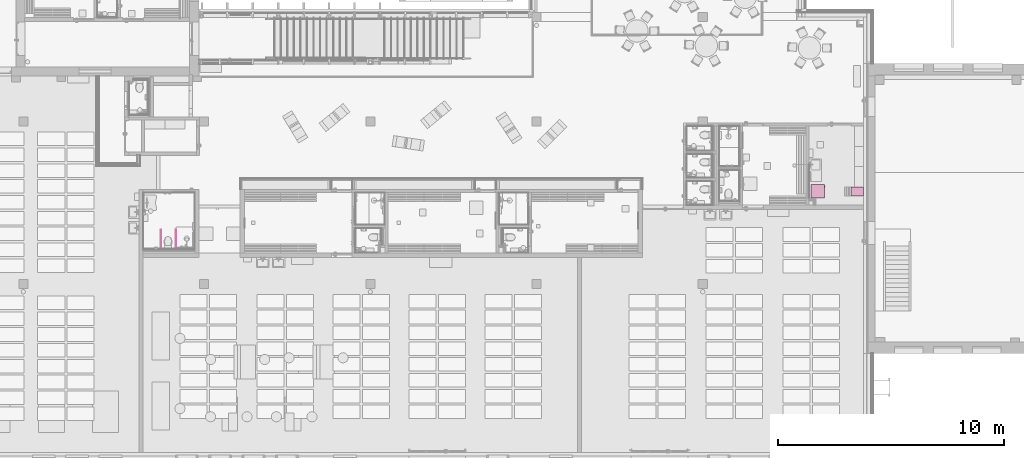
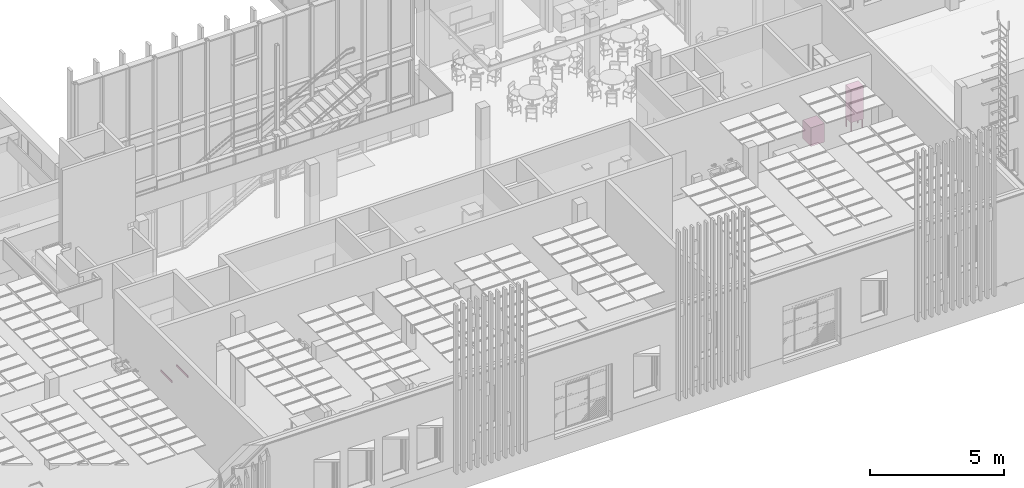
# One storey, part 285 of 301: 4 furnishings.
"""IFC2X3 building model written with IfcOpenShell, lengths in millimetres."""

from ifc_helpers import new_model, entity, si_unit, converted_unit, derived_unit, money_unit, direction, frame, origin_with_axes, place, context, subcontext, project, spatial, open_shell, faceted_brep, surface_model, material, type_object, element, save


model = new_model("IFC2X3")

# Units and contexts
model_context = context("Model", 3, precision=0.01, world=origin_with_axes(), true_north=direction((0.0, 1.0)))
body_context = subcontext(model_context, "Body", "Model", "MODEL_VIEW")
ifc_project = project(units=[si_unit("LENGTHUNIT", "METRE", prefix="MILLI"), si_unit("AREAUNIT", "SQUARE_METRE"), si_unit("VOLUMEUNIT", "CUBIC_METRE"), converted_unit("PLANEANGLEUNIT", "DEGREE", entity("IfcPlaneAngleMeasure", 0.0174532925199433), si_unit("PLANEANGLEUNIT", "RADIAN"), dimensions=[0, 0, 0, 0, 0, 0, 0]), money_unit("EUR"), converted_unit("TIMEUNIT", "Year", entity("IfcTimeMeasure", 31557600.0), si_unit("TIMEUNIT", "SECOND"), dimensions=[0, 0, 1, 0, 0, 0, 0]), si_unit("MASSUNIT", "GRAM", prefix="KILO"), si_unit("THERMODYNAMICTEMPERATUREUNIT", "DEGREE_CELSIUS"), si_unit("LUMINOUSINTENSITYUNIT", "LUMEN"), si_unit("ENERGYUNIT", "JOULE", prefix="MEGA"), derived_unit("THERMALCONDUCTANCEUNIT", [(si_unit("POWERUNIT", "WATT"), 1), (si_unit("LENGTHUNIT", "METRE"), -1), (si_unit("THERMODYNAMICTEMPERATUREUNIT", "KELVIN"), -1)]), derived_unit("SPECIFICHEATCAPACITYUNIT", [(si_unit("ENERGYUNIT", "JOULE"), 1), (si_unit("MASSUNIT", "GRAM", prefix="KILO"), -1), (si_unit("THERMODYNAMICTEMPERATUREUNIT", "KELVIN"), -1)]), derived_unit("MASSDENSITYUNIT", [(si_unit("MASSUNIT", "GRAM", prefix="KILO"), 1), (si_unit("VOLUMEUNIT", "CUBIC_METRE"), -1)])], contexts=[model_context])

# Site, building, storey
site_placement = place(None, frame((0.0, 0.0, 8650.0), z_axis=(0.0, 0.0, 1.0), x_axis=(1.0, 0.0, 0.0)))
site = spatial("IfcSite", under=ifc_project, at=site_placement, Name="43301:001:0844", CompositionType="ELEMENT")
building_placement = place(site_placement, origin_with_axes())
building = spatial("IfcBuilding", under=site, at=building_placement, Name="Kuressaare Ametikooli tuulikute mehaanikute õppekorpus", CompositionType="ELEMENT")
storey_placement = place(building_placement, origin_with_axes())
storey = spatial("IfcBuildingStorey", under=building, at=storey_placement, Name="1.korrus", CompositionType="ELEMENT", Elevation=0.0)

# Furnishings
furniture_type_1 = type_object("IfcFurnitureType", Name="Washer 27", AssemblyPlace="NOTDEFINED")
furnishing_1_placement = place(storey_placement, frame((130710.2843234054, 20686.46984143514, 0.0), z_axis=(0.0, 0.0, 1.0), x_axis=(0.0, 1.0, 0.0)))
element("IfcFurnishingElement", 1, at=furnishing_1_placement, inside=storey, type_object=furniture_type_1, Name="PM", context=body_context, shape_type="SurfaceModel", body=[
    faceted_brep([(300.0, -580.0, 94.44444444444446), (300.0, -600.0, 94.44444444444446), (-300.0, -600.0, 94.44444444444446), (-300.0, -580.0, 94.44444444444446), (300.0, -580.0, 698.888888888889), (300.0, -599.9999999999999, 698.888888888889), (-300.0, -599.9999999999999, 698.888888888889), (-170.0, -600.0, 396.6666666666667), (-147.2243186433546, -600.0, 481.6666666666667), (-85.00000000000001, -600.0, 543.8909853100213), (0.0, -600.0, 566.6666666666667), (84.99999999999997, -600.0, 543.8909853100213), (147.2243186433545, -600.0, 481.6666666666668), (170.0, -600.0, 396.6666666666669), (147.2243186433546, -600.0, 311.6666666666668), (85.0000000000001, -600.0, 249.4423480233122), (0.0, -600.0, 226.6666666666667), (-84.99999999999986, -600.0, 249.4423480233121), (-147.2243186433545, -600.0, 311.6666666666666), (-300.0, -580.0, 698.888888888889), (-170.0, -580.0, 396.6666666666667), (-147.2243186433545, -580.0, 311.6666666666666), (-84.99999999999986, -580.0, 249.4423480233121), (0.0, -580.0, 226.6666666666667), (85.0000000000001, -580.0, 249.4423480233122), (147.2243186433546, -580.0, 311.6666666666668), (170.0, -580.0, 396.6666666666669), (147.2243186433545, -580.0, 481.6666666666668), (84.99999999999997, -580.0, 543.8909853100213), (0.0, -580.0, 566.6666666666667), (-85.00000000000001, -580.0, 543.8909853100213), (-147.2243186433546, -580.0, 481.6666666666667)], [[[0, 1, 2, 3]], [[4, 5, 1, 0]], [[1, 5, 6, 2], [7, 8, 9, 10, 11, 12, 13, 14, 15, 16, 17, 18]], [[3, 2, 6, 19]], [[0, 3, 19, 4], [20, 21, 22, 23, 24, 25, 26, 27, 28, 29, 30, 31]], [[19, 6, 5, 4]], [[31, 8, 7, 20]], [[30, 9, 8, 31]], [[29, 10, 9, 30]], [[28, 11, 10, 29]], [[27, 12, 11, 28]], [[26, 13, 12, 27]], [[25, 14, 13, 26]], [[24, 15, 14, 25]], [[23, 16, 15, 24]], [[22, 17, 16, 23]], [[21, 18, 17, 22]], [[20, 7, 18, 21]]]),
    faceted_brep([(-170.0, -559.9999999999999, 396.6666666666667), (-170.0, -580.0, 396.6666666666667), (-147.2243186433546, -580.0, 481.6666666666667), (-147.2243186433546, -559.9999999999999, 481.6666666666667), (-147.2243186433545, -559.9999999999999, 311.6666666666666), (-147.2243186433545, -580.0, 311.6666666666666), (-84.99999999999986, -580.0, 249.4423480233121), (0.0, -580.0, 226.6666666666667), (85.0000000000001, -580.0, 249.4423480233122), (147.2243186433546, -580.0, 311.6666666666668), (170.0, -580.0, 396.6666666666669), (147.2243186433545, -580.0, 481.6666666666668), (84.99999999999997, -580.0, 543.8909853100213), (0.0, -580.0, 566.6666666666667), (-85.00000000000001, -580.0, 543.8909853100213), (-136.0, -580.0, 396.6666666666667), (-117.7794549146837, -580.0, 464.6666666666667), (-68.0, -580.0, 514.4461215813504), (0.0, -580.0, 532.6666666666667), (67.99999999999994, -580.0, 514.4461215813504), (117.7794549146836, -580.0, 464.6666666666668), (136.0, -580.0, 396.6666666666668), (117.7794549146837, -580.0, 328.6666666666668), (68.00000000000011, -580.0, 278.8872117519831), (0.0, -580.0, 260.6666666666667), (-67.9999999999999, -580.0, 278.887211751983), (-117.7794549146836, -580.0, 328.6666666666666), (-85.00000000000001, -559.9999999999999, 543.8909853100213), (0.0, -559.9999999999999, 566.6666666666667), (84.99999999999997, -559.9999999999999, 543.8909853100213), (147.2243186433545, -559.9999999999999, 481.6666666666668), (170.0, -559.9999999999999, 396.6666666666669), (147.2243186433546, -559.9999999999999, 311.6666666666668), (85.0000000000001, -559.9999999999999, 249.4423480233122), (0.0, -559.9999999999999, 226.6666666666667), (-84.99999999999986, -559.9999999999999, 249.4423480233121), (-136.0, -559.9999999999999, 396.6666666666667), (-117.7794549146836, -559.9999999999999, 328.6666666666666), (-67.9999999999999, -559.9999999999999, 278.887211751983), (0.0, -559.9999999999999, 260.6666666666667), (68.00000000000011, -559.9999999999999, 278.8872117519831), (117.7794549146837, -559.9999999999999, 328.6666666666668), (136.0, -559.9999999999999, 396.6666666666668), (117.7794549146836, -559.9999999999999, 464.6666666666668), (67.99999999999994, -559.9999999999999, 514.4461215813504), (0.0, -559.9999999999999, 532.6666666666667), (-68.0, -559.9999999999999, 514.4461215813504), (-117.7794549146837, -559.9999999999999, 464.6666666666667)], [[[0, 1, 2, 3]], [[4, 5, 1, 0]], [[1, 5, 6, 7, 8, 9, 10, 11, 12, 13, 14, 2], [15, 16, 17, 18, 19, 20, 21, 22, 23, 24, 25, 26]], [[3, 2, 14, 27]], [[0, 3, 27, 28, 29, 30, 31, 32, 33, 34, 35, 4], [36, 37, 38, 39, 40, 41, 42, 43, 44, 45, 46, 47]], [[35, 6, 5, 4]], [[34, 7, 6, 35]], [[33, 8, 7, 34]], [[32, 9, 8, 33]], [[31, 10, 9, 32]], [[30, 11, 10, 31]], [[29, 12, 11, 30]], [[28, 13, 12, 29]], [[27, 14, 13, 28]], [[47, 16, 15, 36]], [[46, 17, 16, 47]], [[45, 18, 17, 46]], [[44, 19, 18, 45]], [[43, 20, 19, 44]], [[42, 21, 20, 43]], [[41, 22, 21, 42]], [[40, 23, 22, 41]], [[39, 24, 23, 40]], [[38, 25, 24, 39]], [[37, 26, 25, 38]], [[36, 15, 26, 37]]]),
    surface_model("IfcShellBasedSurfaceModel", [(67.99999999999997, -559.9999999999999, 514.4461215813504), (50.99999999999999, -459.9999999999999, 485.0012578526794), (0.0, -459.9999999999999, 498.6666666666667), (0.0, -559.9999999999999, 532.6666666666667), (117.7794549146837, -559.9999999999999, 464.6666666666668), (88.33459118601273, -459.9999999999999, 447.6666666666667), (102.0, -459.9999999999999, 396.6666666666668), (88.33459118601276, -459.9999999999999, 345.6666666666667), (51.00000000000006, -459.9999999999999, 308.332075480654), (0.0, -459.9999999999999, 294.6666666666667), (-50.99999999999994, -459.9999999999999, 308.3320754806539), (-88.33459118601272, -459.9999999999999, 345.6666666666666), (-102.0, -459.9999999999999, 396.6666666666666), (-88.3345911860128, -459.9999999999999, 447.6666666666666), (-51.0000000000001, -459.9999999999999, 485.0012578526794), (-68.00000000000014, -559.9999999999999, 514.4461215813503), (136.0, -559.9999999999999, 396.6666666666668), (117.7794549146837, -559.9999999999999, 328.6666666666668), (68.00000000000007, -559.9999999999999, 278.887211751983), (0.0, -559.9999999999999, 260.6666666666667), (-67.99999999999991, -559.9999999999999, 278.887211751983), (-117.7794549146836, -559.9999999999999, 328.6666666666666), (-136.0, -559.9999999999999, 396.6666666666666), (-117.7794549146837, -559.9999999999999, 464.6666666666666)], [open_shell([[[0, 1, 2, 3]], [[4, 5, 1, 0]], [[2, 1, 5, 6, 7, 8, 9, 10, 11, 12, 13, 14]], [[3, 2, 14, 15]], [[16, 6, 5, 4]], [[17, 7, 6, 16]], [[18, 8, 7, 17]], [[19, 9, 8, 18]], [[20, 10, 9, 19]], [[21, 11, 10, 20]], [[22, 12, 11, 21]], [[23, 13, 12, 22]], [[15, 14, 13, 23]]])]),
    surface_model("IfcShellBasedSurfaceModel", [(300.0, -580.0, 94.44444444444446), (299.9999999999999, 0.0, 94.44444444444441), (299.9999999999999, 0.0, 821.6666666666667), (300.0, -580.0, 821.6666666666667)], [open_shell([[[0, 1, 2, 3]]])]),
    surface_model("IfcShellBasedSurfaceModel", [(-300.0, -580.0, 94.44444444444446), (-300.0000000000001, 0.0, 94.44444444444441), (-300.0000000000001, 0.0, 821.6666666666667), (-300.0, -580.0, 821.6666666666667)], [open_shell([[[0, 1, 2, 3]]])]),
    surface_model("IfcShellBasedSurfaceModel", [(300.0, 0.0, 94.44444444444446), (-300.0, 0.0, 94.44444444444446), (-300.0, 0.0, 821.6666666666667), (300.0, 0.0, 821.6666666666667)], [open_shell([[[0, 1, 2, 3]]])]),
    faceted_brep([(300.0, -580.0, 0.0), (300.0, -580.0, 94.44444444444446), (-300.0, -580.0, 94.44444444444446), (-300.0, -580.0, 0.0), (300.0, 0.0, 0.0), (300.0, 0.0, 94.44444444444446), (-300.0, 0.0, 94.44444444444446), (-300.0, 0.0, 0.0)], [[[0, 1, 2, 3]], [[4, 5, 1, 0]], [[1, 5, 6, 2]], [[3, 2, 6, 7]], [[0, 3, 7, 4]], [[7, 6, 5, 4]]]),
    faceted_brep([(300.0, -580.0, 708.3333333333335), (300.0, -600.0, 708.3333333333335), (-300.0, -600.0, 708.3333333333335), (-300.0, -580.0, 708.3333333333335), (300.0, -580.0, 812.2222222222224), (300.0, -600.0, 812.2222222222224), (-300.0, -600.0, 812.2222222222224), (-300.0, -580.0, 812.2222222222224)], [[[0, 1, 2, 3]], [[4, 5, 1, 0]], [[1, 5, 6, 2]], [[3, 2, 6, 7]], [[0, 3, 7, 4]], [[7, 6, 5, 4]]]),
    surface_model("IfcShellBasedSurfaceModel", [(300.0, -580.0, 698.888888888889), (-300.0, -580.0, 698.888888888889), (-300.0, -580.0, 821.6666666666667), (300.0, -580.0, 821.6666666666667)], [open_shell([[[0, 1, 2, 3]]])]),
    faceted_brep([(300.0, -600.0, 821.6666666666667), (300.0, -600.0, 850.0000000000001), (-300.0, -600.0, 850.0000000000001), (-300.0, -600.0, 821.6666666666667), (300.0, 0.0, 821.6666666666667), (300.0, 0.0, 850.0000000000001), (-300.0, 0.0, 850.0000000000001), (-300.0, 0.0, 821.6666666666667)], [[[0, 1, 2, 3]], [[4, 5, 1, 0]], [[1, 5, 6, 2]], [[3, 2, 6, 7]], [[0, 3, 7, 4]], [[7, 6, 5, 4]]]),
    faceted_brep([(231.3397459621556, -600.0, 760.0000000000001), (230.0, -600.0, 765.0000000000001), (231.3397459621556, -600.0, 770.0000000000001), (235.0, -600.0, 773.6602540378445), (240.0, -600.0, 775.0000000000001), (245.0, -600.0, 773.6602540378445), (248.6602540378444, -600.0, 770.0000000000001), (250.0, -600.0, 765.0000000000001), (248.6602540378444, -600.0, 760.0000000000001), (245.0, -600.0, 756.3397459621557), (240.0, -600.0, 755.0000000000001), (235.0, -600.0, 756.3397459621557), (231.3397459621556, -610.0, 760.0000000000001), (230.0, -610.0, 765.0000000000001), (231.3397459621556, -610.0, 770.0000000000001), (235.0, -610.0, 773.6602540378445), (240.0, -610.0, 775.0000000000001), (245.0, -610.0, 773.6602540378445), (248.6602540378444, -610.0, 770.0000000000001), (250.0, -610.0, 765.0000000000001), (248.6602540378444, -610.0, 760.0000000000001), (245.0, -610.0, 756.3397459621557), (240.0, -610.0, 755.0000000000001), (235.0, -610.0, 756.3397459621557)], [[[0, 1, 2, 3, 4, 5, 6, 7, 8, 9, 10, 11]], [[0, 12, 13, 1]], [[1, 13, 14, 2]], [[2, 14, 15, 3]], [[3, 15, 16, 4]], [[4, 16, 17, 5]], [[5, 17, 18, 6]], [[6, 18, 19, 7]], [[7, 19, 20, 8]], [[8, 20, 21, 9]], [[9, 21, 22, 10]], [[10, 22, 23, 11]], [[11, 23, 12, 0]], [[12, 23, 22, 21, 20, 19, 18, 17, 16, 15, 14, 13]]]),
    faceted_brep([(191.3397459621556, -600.0, 760.0000000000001), (190.0, -600.0, 765.0000000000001), (191.3397459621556, -600.0, 770.0000000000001), (195.0, -600.0, 773.6602540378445), (200.0, -600.0, 775.0000000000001), (205.0, -600.0, 773.6602540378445), (208.6602540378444, -600.0, 770.0000000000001), (210.0, -600.0, 765.0000000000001), (208.6602540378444, -600.0, 760.0000000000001), (205.0, -600.0, 756.3397459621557), (200.0, -600.0, 755.0000000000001), (195.0, -600.0, 756.3397459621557), (191.3397459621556, -610.0, 760.0000000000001), (190.0, -610.0, 765.0000000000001), (191.3397459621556, -610.0, 770.0000000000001), (195.0, -610.0, 773.6602540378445), (200.0, -610.0, 775.0000000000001), (205.0, -610.0, 773.6602540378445), (208.6602540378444, -610.0, 770.0000000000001), (210.0, -610.0, 765.0000000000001), (208.6602540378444, -610.0, 760.0000000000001), (205.0, -610.0, 756.3397459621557), (200.0, -610.0, 755.0000000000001), (195.0, -610.0, 756.3397459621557)], [[[0, 1, 2, 3, 4, 5, 6, 7, 8, 9, 10, 11]], [[0, 12, 13, 1]], [[1, 13, 14, 2]], [[2, 14, 15, 3]], [[3, 15, 16, 4]], [[4, 16, 17, 5]], [[5, 17, 18, 6]], [[6, 18, 19, 7]], [[7, 19, 20, 8]], [[8, 20, 21, 9]], [[9, 21, 22, 10]], [[10, 22, 23, 11]], [[11, 23, 12, 0]], [[12, 23, 22, 21, 20, 19, 18, 17, 16, 15, 14, 13]]]),
    faceted_brep([(151.3397459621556, -600.0, 760.0000000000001), (150.0, -600.0, 765.0000000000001), (151.3397459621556, -600.0, 770.0000000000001), (155.0, -600.0, 773.6602540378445), (160.0, -600.0, 775.0000000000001), (165.0, -600.0, 773.6602540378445), (168.6602540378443, -600.0, 770.0000000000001), (170.0, -600.0, 765.0000000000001), (168.6602540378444, -600.0, 760.0000000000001), (165.0, -600.0, 756.3397459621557), (160.0, -600.0, 755.0000000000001), (155.0, -600.0, 756.3397459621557), (151.3397459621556, -610.0, 760.0000000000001), (150.0, -610.0, 765.0000000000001), (151.3397459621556, -610.0, 770.0000000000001), (155.0, -610.0, 773.6602540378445), (160.0, -610.0, 775.0000000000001), (165.0, -610.0, 773.6602540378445), (168.6602540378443, -610.0, 770.0000000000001), (170.0, -610.0, 765.0000000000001), (168.6602540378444, -610.0, 760.0000000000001), (165.0, -610.0, 756.3397459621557), (160.0, -610.0, 755.0000000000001), (155.0, -610.0, 756.3397459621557)], [[[0, 1, 2, 3, 4, 5, 6, 7, 8, 9, 10, 11]], [[0, 12, 13, 1]], [[1, 13, 14, 2]], [[2, 14, 15, 3]], [[3, 15, 16, 4]], [[4, 16, 17, 5]], [[5, 17, 18, 6]], [[6, 18, 19, 7]], [[7, 19, 20, 8]], [[8, 20, 21, 9]], [[9, 21, 22, 10]], [[10, 22, 23, 11]], [[11, 23, 12, 0]], [[12, 23, 22, 21, 20, 19, 18, 17, 16, 15, 14, 13]]]),
    faceted_brep([(111.3397459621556, -600.0, 760.0000000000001), (110.0, -600.0, 765.0000000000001), (111.3397459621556, -600.0, 770.0000000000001), (115.0, -600.0, 773.6602540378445), (120.0, -600.0, 775.0000000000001), (125.0, -600.0, 773.6602540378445), (128.6602540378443, -600.0, 770.0000000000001), (130.0, -600.0, 765.0000000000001), (128.6602540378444, -600.0, 760.0000000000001), (125.0, -600.0, 756.3397459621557), (120.0, -600.0, 755.0000000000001), (115.0, -600.0, 756.3397459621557), (111.3397459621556, -610.0, 760.0000000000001), (110.0, -610.0, 765.0000000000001), (111.3397459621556, -610.0, 770.0000000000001), (115.0, -610.0, 773.6602540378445), (120.0, -610.0, 775.0000000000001), (125.0, -610.0, 773.6602540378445), (128.6602540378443, -610.0, 770.0000000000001), (130.0, -610.0, 765.0000000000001), (128.6602540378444, -610.0, 760.0000000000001), (125.0, -610.0, 756.3397459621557), (120.0, -610.0, 755.0000000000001), (115.0, -610.0, 756.3397459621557)], [[[0, 1, 2, 3, 4, 5, 6, 7, 8, 9, 10, 11]], [[0, 12, 13, 1]], [[1, 13, 14, 2]], [[2, 14, 15, 3]], [[3, 15, 16, 4]], [[4, 16, 17, 5]], [[5, 17, 18, 6]], [[6, 18, 19, 7]], [[7, 19, 20, 8]], [[8, 20, 21, 9]], [[9, 21, 22, 10]], [[10, 22, 23, 11]], [[11, 23, 12, 0]], [[12, 23, 22, 21, 20, 19, 18, 17, 16, 15, 14, 13]]]),
])
ifc_material = material(Name="GENEERILINE - SISEMINE VOODER")
furniture_type_2 = type_object("IfcFurnitureType", Name="GENEERILINE - SISEMINE VOODER 30", AssemblyPlace="NOTDEFINED")
furnishing_2_placement = place(storey_placement, frame((101967.9522847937, 18124.79370050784, 690.0), z_axis=(0.0, 0.0, 1.0), x_axis=(0.0, 1.0, 0.0)))
element("IfcFurnishingElement", 2, at=furnishing_2_placement, inside=storey, type_object=furniture_type_2, material=ifc_material, Name="KT1", context=body_context, shape_type="Brep", body=[
    faceted_brep([(850.0000000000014, 30.00000000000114, 99.99999999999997), (8.519978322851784e-05, 30.00000000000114, 100.0000000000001), (8.118060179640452e-05, 0.0, 100.0000000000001), (850.0000000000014, 0.0, 99.99999999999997), (850.0000000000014, 30.00000000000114, 0.0), (8.519978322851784e-05, 30.00000000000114, 0.0), (8.118060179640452e-05, 0.0, 0.0), (850.0000000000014, 0.0, 0.0)], [[[0, 1, 2, 3]], [[4, 5, 1, 0]], [[5, 6, 2, 1]], [[3, 2, 6, 7]], [[0, 3, 7, 4]], [[7, 6, 5, 4]]]),
])
furnishing_3_placement = place(storey_placement, frame((102611.73194402, 18124.79370050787, 690.0), z_axis=(0.0, 0.0, 1.0), x_axis=(2.679454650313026e-07, 0.9999999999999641, 0.0)))
element("IfcFurnishingElement", 3, at=furnishing_3_placement, inside=storey, type_object=furniture_type_2, material=ifc_material, Name="KT1", context=body_context, shape_type="Brep", body=[
    faceted_brep([(849.9999999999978, 0.0, 99.99999999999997), (-5.068358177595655e-06, 0.0, 100.0000000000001), (-1.049176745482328e-06, -30.00000000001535, 100.0000000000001), (849.9999999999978, -30.00000000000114, 99.99999999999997), (849.9999999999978, 0.0, 0.0), (-5.068358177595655e-06, 0.0, 0.0), (-1.049176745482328e-06, -30.00000000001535, 0.0), (849.9999999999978, -30.00000000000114, 0.0)], [[[0, 1, 2, 3]], [[4, 5, 1, 0]], [[5, 6, 2, 1]], [[3, 2, 6, 7]], [[7, 4, 0, 3]], [[7, 6, 5, 4]]]),
])
furniture_type_3 = type_object("IfcFurnitureType", Name="Lockers 27", AssemblyPlace="NOTDEFINED")
furnishing_4_placement = place(storey_placement, frame((132479.9464416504, 20474.06892395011, 0.0), z_axis=(0.0, 0.0, 1.0), x_axis=(0.0, -1.0, 0.0)))
element("IfcFurnishingElement", 4, at=furnishing_4_placement, inside=storey, type_object=furniture_type_3, Name="GK1", context=body_context, shape_type="Brep", body=[
    faceted_brep([(-9.999999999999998, 9.999999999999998, 0.0), (-9.999999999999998, 9.999999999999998, 400.0), (-50.0, 9.999999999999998, 400.0), (-50.0, 9.999999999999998, 0.0), (-9.999999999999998, 50.0, 0.0), (-9.999999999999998, 50.0, 400.0), (-50.0, 50.0, 400.0), (-50.0, 50.0, 0.0)], [[[0, 1, 2, 3]], [[4, 5, 1, 0]], [[1, 5, 6, 2]], [[3, 2, 6, 7]], [[0, 3, 7, 4]], [[7, 6, 5, 4]]]),
    faceted_brep([(-350.0, 9.999999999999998, 0.0), (-350.0, 9.999999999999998, 400.0), (-390.0, 9.999999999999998, 400.0), (-390.0, 9.999999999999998, 0.0), (-350.0, 50.0, 0.0), (-350.0, 50.0, 400.0), (-390.0, 50.0, 400.0), (-390.0, 50.0, 0.0)], [[[0, 1, 2, 3]], [[4, 5, 1, 0]], [[1, 5, 6, 2]], [[3, 2, 6, 7]], [[0, 3, 7, 4]], [[7, 6, 5, 4]]]),
    faceted_brep([(-9.999999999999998, 495.0, 0.0), (-9.999999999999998, 495.0, 400.0), (-50.0, 495.0, 400.0), (-50.0, 495.0, 0.0), (-9.999999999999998, 535.0, 0.0), (-9.999999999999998, 535.0, 400.0), (-50.0, 535.0, 400.0), (-50.0, 535.0, 0.0)], [[[0, 1, 2, 3]], [[4, 5, 1, 0]], [[1, 5, 6, 2]], [[3, 2, 6, 7]], [[0, 3, 7, 4]], [[7, 6, 5, 4]]]),
    faceted_brep([(-350.0, 495.0, 0.0), (-350.0, 495.0, 400.0), (-390.0, 495.0, 400.0), (-390.0, 495.0, 0.0), (-350.0, 535.0, 0.0), (-350.0, 535.0, 400.0), (-390.0, 535.0, 400.0), (-390.0, 535.0, 0.0)], [[[0, 1, 2, 3]], [[4, 5, 1, 0]], [[1, 5, 6, 2]], [[3, 2, 6, 7]], [[0, 3, 7, 4]], [[7, 6, 5, 4]]]),
    faceted_brep([(0.0, 0.0, 400.0), (0.0, 525.0, 400.0000000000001), (0.0, 524.9999999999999, 1900.0), (0.0, 0.0, 1900.0), (-400.0, 0.0, 400.0), (-400.0, 525.0, 400.0000000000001), (-400.0, 524.9999999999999, 1900.0), (-20.0, 525.0, 420.0000000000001), (-20.0, 524.9999999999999, 1880.0), (-380.0, 524.9999999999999, 1880.0), (-380.0, 525.0, 420.0000000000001), (-400.0, 0.0, 1900.0), (-20.0, 0.0, 420.0000000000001), (-380.0, 0.0, 420.0000000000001), (-380.0, 0.0, 1880.0), (-20.0, 0.0, 1880.0)], [[[0, 1, 2, 3]], [[4, 5, 1, 0]], [[1, 5, 6, 2], [7, 8, 9, 10]], [[3, 2, 6, 11]], [[0, 3, 11, 4], [12, 13, 14, 15]], [[11, 6, 5, 4]], [[15, 8, 7, 12]], [[14, 9, 8, 15]], [[13, 10, 9, 14]], [[12, 7, 10, 13]]]),
    faceted_brep([(0.0, 524.9999999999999, 1900.0), (0.0, 544.9999999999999, 1900.0), (-400.0, 544.9999999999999, 1900.0), (-400.0, 524.9999999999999, 1900.0), (0.0, 525.0, 400.0000000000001), (0.0, 545.0, 400.0000000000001), (-400.0, 545.0, 400.0000000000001), (-400.0, 525.0, 400.0000000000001)], [[[0, 1, 2, 3]], [[4, 5, 1, 0]], [[1, 5, 6, 2]], [[3, 2, 6, 7]], [[0, 3, 7, 4]], [[7, 6, 5, 4]]]),
    faceted_brep([(-380.0000000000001, 5.0, 420.0000000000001), (-380.0000000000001, -5.0, 420.0000000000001), (-380.0000000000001, -4.99999999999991, 1880.0), (-380.0000000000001, 5.00000000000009, 1880.0), (-20.0, 5.0, 420.0000000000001), (-20.0, -5.0, 420.0000000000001), (-20.0, -4.99999999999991, 1880.0), (-20.0, 5.00000000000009, 1880.0)], [[[0, 1, 2, 3]], [[4, 5, 1, 0]], [[1, 5, 6, 2]], [[3, 2, 6, 7]], [[0, 3, 7, 4]], [[7, 6, 5, 4]]]),
    faceted_brep([(-237.5, -10.0, 1800.0), (-237.5, -5.0, 1800.0), (-162.5, -5.0, 1800.0), (-162.5, -10.0, 1800.0), (-237.5, -10.0, 1850.0), (-237.5, -5.0, 1850.0), (-162.5, -5.0, 1850.0), (-162.5, -10.0, 1850.0)], [[[0, 1, 2, 3]], [[0, 4, 5, 1]], [[1, 5, 6, 2]], [[2, 6, 7, 3]], [[3, 7, 4, 0]], [[7, 6, 5, 4]]]),
    faceted_brep([(-84.14213562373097, -5.000000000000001, 1135.857864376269), (-90.00000000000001, -5.0, 1150.0), (-84.14213562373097, -4.999999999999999, 1164.142135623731), (-70.0, -4.999999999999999, 1170.0), (-55.85786437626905, -4.999999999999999, 1164.142135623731), (-50.0, -5.0, 1150.0), (-55.85786437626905, -5.000000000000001, 1135.857864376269), (-70.0, -5.000000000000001, 1130.0), (-84.14213562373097, -15.0, 1135.857864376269), (-90.00000000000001, -15.0, 1150.0), (-84.14213562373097, -15.0, 1164.142135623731), (-70.0, -15.0, 1170.0), (-55.85786437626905, -15.0, 1164.142135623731), (-50.0, -15.0, 1150.0), (-55.85786437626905, -15.0, 1135.857864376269), (-70.0, -15.0, 1130.0)], [[[0, 1, 2, 3, 4, 5, 6, 7]], [[0, 8, 9, 1]], [[1, 9, 10, 2]], [[2, 10, 11, 3]], [[3, 11, 12, 4]], [[4, 12, 13, 5]], [[5, 13, 14, 6]], [[6, 14, 15, 7]], [[7, 15, 8, 0]], [[8, 15, 14, 13, 12, 11, 10, 9]]]),
])

save(model, "model.ifc")
